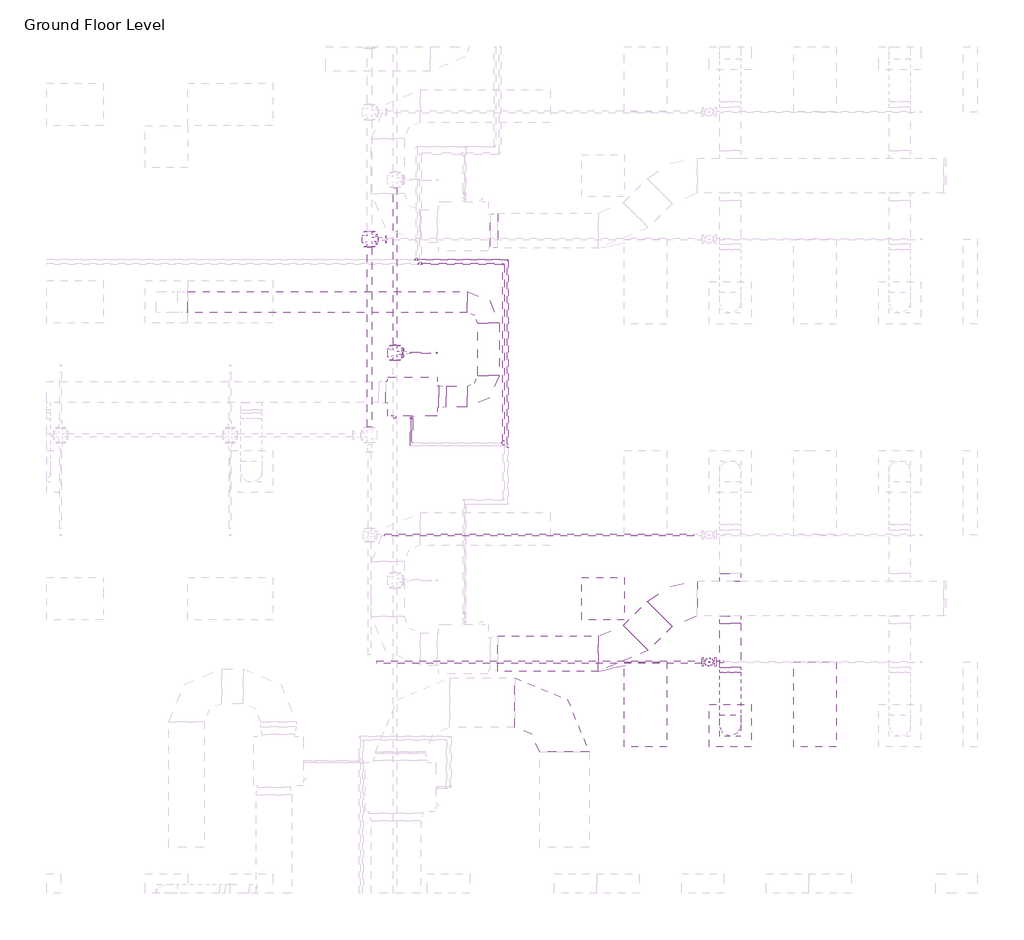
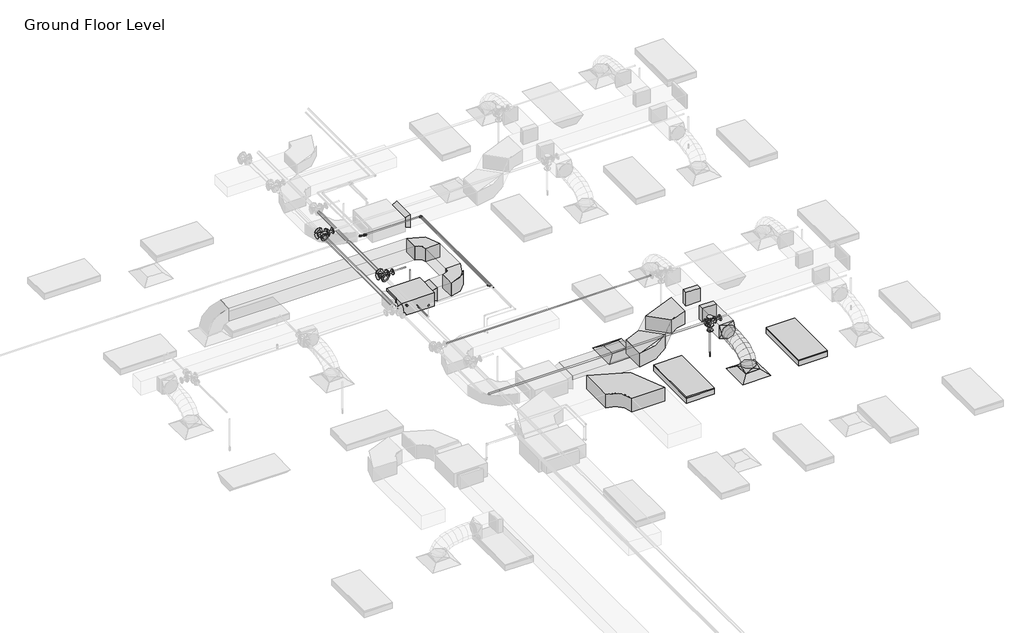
# One storey, part 36 of 74: 18 pipe fittings, 13 pipe segments, 11 duct fittings, 7 duct segments, 2 air terminals, 2 fire suppression terminals, 2 light fixtures, 1 proxy.
"""IFC4 building model written with IfcOpenShell, lengths in millimetres."""

from ifc_helpers import new_model, si_unit, point, frame, frame_2d, origin, place, context, project, spatial, polyline, circle_curve, ellipse_curve, trimmed, segment, composite_curve, outline, extrude, transform, mapped, element, save
from ifc_brep_helpers import plane_surface, cylinder_surface, advanced_brep
from components import m_return_diffuser_600_x_600_face_300_x_300_connection_ff221211, fcu_daikin_iu_27d020f6, m_rectangular_elbow_radius_1_w_618da153, m_rectangular_elbow_radius_1_w_8a62b27e, m_rectangular_elbow_radius_1_5_w_acc56c25, m_rectangular_takeoff_standard_cb0ccb98, m_rectangular_takeoff_standard_2be5eba1, m_rectangular_transition_angle_45_degree_2b595dfe, m_rectangular_transition_angle_45_degree_bfac0661, m_rectangular_to_round_transition_angle_45_degree_641efff0, m_sprinkler_dry_pendent_hosted_15_mm_dry_pendent_9bda8e11, m_sprinkler_pendent_15_mm_pendent_06fcbd8e, m_troffer_light_parabolic_rectangular1_0600x1200mm_4_lamp_86473d4a, m_elbow_generic_standard_a088f956, m_elbow_generic_standard_738589b0, m_reducer_flanged_cs_class_150_standard_ccf252ad, m_reducer_flanged_cs_class_150_standard_83138b42, m_reducer_flanged_cs_class_150_standard_a7631c35, m_tee_generic_standard_cdc1cff5, m_tee_generic_standard_bbfc025c, m_tee_round_base_flanged_cs_class_150_standard_dd767e04, m_tee_round_base_flanged_cs_class_150_standard_7e5987a1, m_tee_round_base_flanged_cs_class_150_standard_ab36f383, m_transition_generic_standard_6dc712c0, m_transition_generic_standard_2351da66, m_transition_generic_standard_bdcfe2c1, m_transition_generic_standard_44e35838

model = new_model("IFC4")

# Units and contexts
model_context = context("Model", 3, world=origin())
ifc_project = project(units=[si_unit("LENGTHUNIT", "METRE", prefix="MILLI")], contexts=[model_context])

# Site, building, storey
site = spatial("IfcSite", under=ifc_project)
building = spatial("IfcBuilding", under=site)
storey = spatial("IfcBuildingStorey", under=building, Name="Ground Floor Level", Elevation=900.0)

# Air terminals
placement = place(None, origin())
m_return_diffuser_600_x_600_face_300_x_300_connection_shape = m_return_diffuser_600_x_600_face_300_x_300_connection_ff221211(model_context)
element("IfcAirTerminal", 1, ObjectType="M_Return Diffuser : 600 x 600 Face 300 x 300 Connection", at=placement, inside=storey, context=model_context, shape_type="MappedRepresentation", body=[
    mapped(m_return_diffuser_600_x_600_face_300_x_300_connection_shape, transform((8942.7672395, -5264.7846466, 3650.0), x_axis=(1.0, 0.0, 0.0), y_axis=(0.0, 1.0, 0.0), z_axis=(0.0, 0.0, 1.0))),
])
element("IfcAirTerminal", 2, ObjectType="M_Supply Diffuser : 600 x 600 Face 300 x 300 Connection", at=placement, inside=storey, context=model_context, shape_type="MappedRepresentation", body=[
    mapped(m_return_diffuser_600_x_600_face_300_x_300_connection_shape, transform((10742.7672395, -7064.7846466, 3650.0), x_axis=(1.0, 0.0, 0.0), y_axis=(0.0, 1.0, 0.0), z_axis=(0.0, 0.0, 1.0))),
])

# Proxy
fcu_daikin_iu_shape = fcu_daikin_iu_27d020f6(model_context)
element("IfcBuildingElementProxy", 3, Name="FCU-DAIKIN IU : 2.3kW, 230V/50Hz/1Ph", ObjectType="FCU-DAIKIN IU : 2.3kW, 230V/50Hz/1Ph", at=placement, inside=storey, context=model_context, shape_type="MappedRepresentation", body=[
    mapped(fcu_daikin_iu_shape, transform((6243.4139492, -2405.2438478, 3934.0874667), x_axis=(0.0, -1.0, 0.0), y_axis=(1.0, 0.0, 0.0), z_axis=(0.0, 0.0, 1.0))),
])

# Duct fittings
m_rectangular_elbow_radius_1_w_shape = m_rectangular_elbow_radius_1_w_618da153(model_context)
element("IfcDuctFitting", 4, ObjectType="M_Rectangular Elbow - Radius : 1 W", at=placement, inside=storey, context=model_context, shape_type="MappedRepresentation", body=[
    mapped(m_rectangular_elbow_radius_1_w_shape, transform((7318.8139492, -2405.2438478, 4075.2874667), x_axis=(1.0, 0.0, 0.0), y_axis=(0.0, 1.0, 0.0), z_axis=(0.0, 0.0, 1.0))),
])
element("IfcDuctFitting", 5, ObjectType="M_Rectangular Elbow - Radius : 1 W", at=placement, inside=storey, context=model_context, shape_type="MappedRepresentation", body=[
    mapped(m_rectangular_elbow_radius_1_w_shape, transform((7318.8139492, -1064.7846466, 4075.2874667), x_axis=(0.0, 1.0, 0.0), y_axis=(-1.0, 0.0, 0.0), z_axis=(0.0, 0.0, 1.0))),
])
m_rectangular_elbow_radius_1_w_2_shape = m_rectangular_elbow_radius_1_w_8a62b27e(model_context)
element("IfcDuctFitting", 6, ObjectType="M_Rectangular Elbow - Radius : 1 W", at=placement, inside=storey, context=model_context, shape_type="MappedRepresentation", body=[
    mapped(m_rectangular_elbow_radius_1_w_2_shape, transform((8393.4139492, -6738.5358641, 4075.2875), x_axis=(0.0, 1.0, 0.0), y_axis=(-1.0, 0.0, 0.0), z_axis=(0.0, 0.0, 1.0))),
])
m_rectangular_elbow_radius_1_5_w_shape = m_rectangular_elbow_radius_1_5_w_acc56c25(model_context)
element("IfcDuctFitting", 7, ObjectType="M_Rectangular Elbow - Radius : 1.5 W", at=placement, inside=storey, context=model_context, shape_type="MappedRepresentation", body=[
    mapped(m_rectangular_elbow_radius_1_5_w_shape, transform((9187.6927358, -6043.8220473, 4100.0047224), x_axis=(0.9999999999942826, 0.0, -3.3815582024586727e-06), y_axis=(-9.063610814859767e-12, 0.9999999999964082, -2.680306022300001e-06), z_axis=(3.3815582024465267e-06, 2.6803060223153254e-06, 0.9999999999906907))),
])
element("IfcDuctFitting", 8, ObjectType="M_Rectangular Elbow - Radius : 1.5 W", at=placement, inside=storey, context=model_context, shape_type="MappedRepresentation", body=[
    mapped(m_rectangular_elbow_radius_1_5_w_shape, transform((9966.7301365, -5264.7846466, 4100.0), x_axis=(-1.0, 0.0, 0.0), y_axis=(0.0, -0.9999999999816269, 6.061864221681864e-06), z_axis=(0.0, 6.061864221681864e-06, 0.9999999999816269))),
])
m_rectangular_takeoff_standard_shape = m_rectangular_takeoff_standard_cb0ccb98(model_context)
element("IfcDuctFitting", 9, ObjectType="M_Rectangular Takeoff : Standard", at=placement, inside=storey, context=model_context, shape_type="MappedRepresentation", body=[
    mapped(m_rectangular_takeoff_standard_shape, transform((10742.7672395, -5014.7846466, 4100.0), x_axis=(0.0, 1.0, 0.0), y_axis=(1.0, 0.0, 0.0), z_axis=(0.0, 0.0, -1.0))),
])
m_rectangular_takeoff_standard_2_shape = m_rectangular_takeoff_standard_2be5eba1(model_context)
element("IfcDuctFitting", 10, ObjectType="M_Rectangular Takeoff : Standard", at=placement, inside=storey, context=model_context, shape_type="MappedRepresentation", body=[
    mapped(m_rectangular_takeoff_standard_2_shape, transform((10742.7672395, -5514.7846466, 4100.0), x_axis=(0.0, -1.0, 0.0), y_axis=(-1.0, 0.0, 0.0), z_axis=(0.0, 0.0, -1.0))),
])
m_rectangular_transition_angle_45_degree_shape = m_rectangular_transition_angle_45_degree_2b595dfe(model_context)
element("IfcDuctFitting", 11, ObjectType="M_Rectangular Transition - Angle : 45 Degree", at=placement, inside=storey, context=model_context, shape_type="MappedRepresentation", body=[
    mapped(m_rectangular_transition_angle_45_degree_shape, transform((7344.2139492, -53.8220473, 4100.0057729), x_axis=(1.0, 0.0, 0.0), y_axis=(0.0, 1.0, 0.0), z_axis=(0.0, 0.0, 1.0))),
])
m_rectangular_transition_angle_45_degree_2_shape = m_rectangular_transition_angle_45_degree_bfac0661(model_context)
element("IfcDuctFitting", 12, ObjectType="M_Rectangular Transition - Angle : 45 Degree", at=placement, inside=storey, context=model_context, shape_type="MappedRepresentation", body=[
    mapped(m_rectangular_transition_angle_45_degree_2_shape, transform((6618.8139492, -2405.2438478, 4075.2874667), x_axis=(1.0, 0.0, 0.0), y_axis=(0.0, 1.0, 0.0), z_axis=(0.0, 0.0, 1.0))),
])
m_rectangular_to_round_transition_angle_45_degree_shape = m_rectangular_to_round_transition_angle_45_degree_641efff0(model_context)
element("IfcDuctFitting", 13, ObjectType="M_Rectangular to Round Transition - Angle : 45 Degree", at=placement, inside=storey, context=model_context, shape_type="MappedRepresentation", body=[
    mapped(m_rectangular_to_round_transition_angle_45_degree_shape, transform((10742.7672395, -7064.7846466, 3751.6), x_axis=(0.0, 0.0, 1.0), y_axis=(-1.0, 0.0, 0.0), z_axis=(0.0, -1.0, 0.0))),
])
element("IfcDuctFitting", 14, ObjectType="M_Rectangular to Round Transition - Angle : 45 Degree", at=placement, inside=storey, context=model_context, shape_type="MappedRepresentation", body=[
    mapped(m_rectangular_to_round_transition_angle_45_degree_shape, transform((10742.7672395, -6237.4487153, 4100.0), x_axis=(0.0, -1.0, 0.0), y_axis=(1.0, 0.0, 0.0), z_axis=(0.0, 0.0, 1.0))),
])

# Duct segments
element("IfcDuctSegment", 15, ObjectType="Flex - Round", at=placement, inside=storey, context=model_context, shape_type="AdvancedBrep", body=[
    advanced_brep(
    [(10892.7672395, -7064.7846466, 3826.6), (10742.7672395, -7214.7846466, 3826.6), (10592.7672395, -7064.7846466, 3826.6), (10742.7672395, -6914.7846466, 3826.6), (10892.7672395, -7064.7846466, 3857.9377114), (10742.7672395, -7214.7846466, 3883.5809337), (10592.7672395, -7064.7846466, 3857.9377114), (10742.7672395, -6914.7846466, 3832.2944892), (10892.7672395, -7047.7687141, 3906.2505728), (10742.7672395, -7181.506693, 3978.0660967), (10592.7672395, -7047.7687141, 3906.2505728), (10742.7672395, -6914.0307351, 3834.435049), (10892.7672395, -7000.5848337, 3968.7113131), (10742.7672395, -7104.7907329, 4079.6206026), (10592.7672395, -7000.5848337, 3968.7113131), (10742.7672395, -6896.3789345, 3857.8020236), (10892.7672395, -6929.0288815, 4016.0700639), (10742.7672395, -6997.9629372, 4150.3237489), (10592.7672395, -6929.0288815, 4016.0700639), (10742.7672395, -6860.0948259, 3881.8163788), (10892.7672395, -6838.8967335, 4050.4146682), (10742.7672395, -6882.4574967, 4194.3367758), (10592.7672395, -6838.8967335, 4050.4146682), (10742.7672395, -6795.3359704, 3906.4925606), (10892.7672395, -6735.9842657, 4073.8329691), (10742.7672395, -6762.5451897, 4221.6234841), (10592.7672395, -6735.9842657, 4073.8329691), (10742.7672395, -6709.4233417, 3926.0424542), (10892.7672395, -6626.087354, 4088.4128097), (10742.7672395, -6641.2382563, 4237.7170733), (10592.7672395, -6626.087354, 4088.4128097), (10742.7672395, -6610.9364516, 3939.1085462), (10892.7672395, -6515.0018743, 4096.242033), (10742.7672395, -6522.5072025, 4246.085151), (10592.7672395, -6515.0018743, 4096.242033), (10742.7672395, -6507.4965462, 3946.398915), (10892.7672395, -6408.5237028, 4099.4084821), (10742.7672395, -6411.2151959, 4249.394754), (10592.7672395, -6408.5237028, 4099.4084821), (10742.7672395, -6405.8322097, 3949.4222102), (10892.7672395, -6312.4487153, 4100.0), (10742.7672395, -6311.5252075, 3950.0028429), (10592.7672395, -6312.4487153, 4100.0), (10742.7672395, -6313.3722232, 4249.9971571)],
    [
        (0, 1, circle_curve(frame((10742.7672395, -7064.7846466, 3826.6), z_axis=(0.0, 0.0, -1.0), x_axis=(1.0, 0.0, 0.0)), 150.0)),
        (1, 2, circle_curve(frame((10742.7672395, -7064.7846466, 3826.6), z_axis=(0.0, 0.0, -1.0), x_axis=(1.0, 0.0, 0.0)), 150.0)),
        (2, 3, circle_curve(frame((10742.7672395, -7064.7846466, 3826.6), z_axis=(0.0, 0.0, -1.0), x_axis=(1.0, 0.0, 0.0)), 150.0)),
        (3, 0, circle_curve(frame((10742.7672395, -7064.7846466, 3826.6), z_axis=(0.0, 0.0, -1.0), x_axis=(1.0, 0.0, 0.0)), 150.0)),
        (0, 4),
        (4, 5, ellipse_curve(frame((10742.7672395, -7064.7846466, 3857.9377114), z_axis=(0.0, -0.16851014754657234, -0.9856999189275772), x_axis=(0.0, 0.9856999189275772, -0.1685101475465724)), 152.176131, 150.0)),
        (5, 1),
        (5, 6, ellipse_curve(frame((10742.7672395, -7064.7846466, 3857.9377114), z_axis=(0.0, -0.16851014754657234, -0.9856999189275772), x_axis=(0.0, 0.9856999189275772, -0.1685101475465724)), 152.176131, 150.0)),
        (6, 2),
        (6, 7, ellipse_curve(frame((10742.7672395, -7064.7846466, 3857.9377114), z_axis=(0.0, -0.16851014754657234, -0.9856999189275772), x_axis=(0.0, 0.9856999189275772, -0.1685101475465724)), 152.176131, 150.0)),
        (7, 3),
        (7, 4, ellipse_curve(frame((10742.7672395, -7064.7846466, 3857.9377114), z_axis=(0.0, -0.16851014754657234, -0.9856999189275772), x_axis=(0.0, 0.9856999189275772, -0.1685101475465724)), 152.176131, 150.0)),
        (4, 8),
        (8, 9, ellipse_curve(frame((10742.7672395, -7047.7687141, 3906.2505728), z_axis=(0.0, -0.4730922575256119, -0.8810128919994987), x_axis=(0.0, 0.8810128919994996, -0.47309225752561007)), 151.8002519, 150.0)),
        (9, 5),
        (9, 10, ellipse_curve(frame((10742.7672395, -7047.7687141, 3906.2505728), z_axis=(0.0, -0.4730922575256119, -0.8810128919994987), x_axis=(0.0, 0.8810128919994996, -0.47309225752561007)), 151.8002519, 150.0)),
        (10, 6),
        (10, 11, ellipse_curve(frame((10742.7672395, -7047.7687141, 3906.2505728), z_axis=(0.0, -0.4730922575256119, -0.8810128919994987), x_axis=(0.0, 0.8810128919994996, -0.47309225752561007)), 151.8002519, 150.0)),
        (11, 7),
        (11, 8, ellipse_curve(frame((10742.7672395, -7047.7687141, 3906.2505728), z_axis=(0.0, -0.4730922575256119, -0.8810128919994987), x_axis=(0.0, 0.8810128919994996, -0.47309225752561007)), 151.8002519, 150.0)),
        (8, 12),
        (12, 13, ellipse_curve(frame((10742.7672395, -7000.5848337, 3968.7113131), z_axis=(0.0, -0.7287877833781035, -0.6847396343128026), x_axis=(0.0, 0.6847396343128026, -0.7287877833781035)), 152.1832446, 150.0)),
        (13, 9),
        (13, 14, ellipse_curve(frame((10742.7672395, -7000.5848337, 3968.7113131), z_axis=(0.0, -0.7287877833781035, -0.6847396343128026), x_axis=(0.0, 0.6847396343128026, -0.7287877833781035)), 152.1832446, 150.0)),
        (14, 10),
        (14, 15, ellipse_curve(frame((10742.7672395, -7000.5848337, 3968.7113131), z_axis=(0.0, -0.7287877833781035, -0.6847396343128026), x_axis=(0.0, 0.6847396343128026, -0.7287877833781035)), 152.1832446, 150.0)),
        (15, 11),
        (15, 12, ellipse_curve(frame((10742.7672395, -7000.5848337, 3968.7113131), z_axis=(0.0, -0.7287877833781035, -0.6847396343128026), x_axis=(0.0, 0.6847396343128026, -0.7287877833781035)), 152.1832446, 150.0)),
        (12, 16),
        (16, 17, ellipse_curve(frame((10742.7672395, -6929.0288815, 4016.0700639), z_axis=(0.0, -0.8895859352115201, -0.4567678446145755), x_axis=(0.0, 0.45676784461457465, -0.8895859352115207)), 150.91705, 150.0)),
        (17, 13),
        (17, 18, ellipse_curve(frame((10742.7672395, -6929.0288815, 4016.0700639), z_axis=(0.0, -0.8895859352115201, -0.4567678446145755), x_axis=(0.0, 0.45676784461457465, -0.8895859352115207)), 150.91705, 150.0)),
        (18, 14),
        (18, 19, ellipse_curve(frame((10742.7672395, -6929.0288815, 4016.0700639), z_axis=(0.0, -0.8895859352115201, -0.4567678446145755), x_axis=(0.0, 0.45676784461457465, -0.8895859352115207)), 150.91705, 150.0)),
        (19, 15),
        (19, 16, ellipse_curve(frame((10742.7672395, -6929.0288815, 4016.0700639), z_axis=(0.0, -0.8895859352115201, -0.4567678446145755), x_axis=(0.0, 0.45676784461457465, -0.8895859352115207)), 150.91705, 150.0)),
        (16, 20),
        (20, 21, ellipse_curve(frame((10742.7672395, -6838.8967335, 4050.4146682), z_axis=(0.0, -0.9571203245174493, -0.28969067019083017), x_axis=(0.0, 0.28969067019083, -0.9571203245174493)), 150.369921, 150.0)),
        (21, 17),
        (21, 22, ellipse_curve(frame((10742.7672395, -6838.8967335, 4050.4146682), z_axis=(0.0, -0.9571203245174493, -0.28969067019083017), x_axis=(0.0, 0.28969067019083, -0.9571203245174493)), 150.369921, 150.0)),
        (22, 18),
        (22, 23, ellipse_curve(frame((10742.7672395, -6838.8967335, 4050.4146682), z_axis=(0.0, -0.9571203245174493, -0.28969067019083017), x_axis=(0.0, 0.28969067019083, -0.9571203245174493)), 150.369921, 150.0)),
        (23, 19),
        (23, 20, ellipse_curve(frame((10742.7672395, -6838.8967335, 4050.4146682), z_axis=(0.0, -0.9571203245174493, -0.28969067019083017), x_axis=(0.0, 0.28969067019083, -0.9571203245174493)), 150.369921, 150.0)),
        (20, 24),
        (24, 25, ellipse_curve(frame((10742.7672395, -6735.9842657, 4073.8329691), z_axis=(0.0, -0.9842313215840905, -0.1768861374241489), x_axis=(0.0, 0.17688613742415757, -0.9842313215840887)), 150.1583131, 150.0)),
        (25, 21),
        (25, 26, ellipse_curve(frame((10742.7672395, -6735.9842657, 4073.8329691), z_axis=(0.0, -0.9842313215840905, -0.1768861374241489), x_axis=(0.0, 0.17688613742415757, -0.9842313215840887)), 150.1583131, 150.0)),
        (26, 22),
        (26, 27, ellipse_curve(frame((10742.7672395, -6735.9842657, 4073.8329691), z_axis=(0.0, -0.9842313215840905, -0.1768861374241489), x_axis=(0.0, 0.17688613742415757, -0.9842313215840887)), 150.1583131, 150.0)),
        (27, 23),
        (27, 24, ellipse_curve(frame((10742.7672395, -6735.9842657, 4073.8329691), z_axis=(0.0, -0.9842313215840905, -0.1768861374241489), x_axis=(0.0, 0.17688613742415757, -0.9842313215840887)), 150.1583131, 150.0)),
        (24, 28),
        (28, 29, ellipse_curve(frame((10742.7672395, -6626.087354, 4088.4128097), z_axis=(0.0, -0.9948906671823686, -0.10095821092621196), x_axis=(0.0, 0.10095821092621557, -0.9948906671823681)), 150.0710264, 150.0)),
        (29, 25),
        (29, 30, ellipse_curve(frame((10742.7672395, -6626.087354, 4088.4128097), z_axis=(0.0, -0.9948906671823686, -0.10095821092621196), x_axis=(0.0, 0.10095821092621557, -0.9948906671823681)), 150.0710264, 150.0)),
        (30, 26),
        (30, 31, ellipse_curve(frame((10742.7672395, -6626.087354, 4088.4128097), z_axis=(0.0, -0.9948906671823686, -0.10095821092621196), x_axis=(0.0, 0.10095821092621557, -0.9948906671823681)), 150.0710264, 150.0)),
        (31, 27),
        (31, 28, ellipse_curve(frame((10742.7672395, -6626.087354, 4088.4128097), z_axis=(0.0, -0.9948906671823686, -0.10095821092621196), x_axis=(0.0, 0.10095821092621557, -0.9948906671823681)), 150.0710264, 150.0)),
        (28, 32),
        (32, 33, ellipse_curve(frame((10742.7672395, -6515.0018743, 4096.242033), z_axis=(0.0, -0.9987479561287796, -0.05002519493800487), x_axis=(0.0, 0.050025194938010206, -0.9987479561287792)), 150.0309634, 150.0)),
        (33, 29),
        (33, 34, ellipse_curve(frame((10742.7672395, -6515.0018743, 4096.242033), z_axis=(0.0, -0.9987479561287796, -0.05002519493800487), x_axis=(0.0, 0.050025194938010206, -0.9987479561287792)), 150.0309634, 150.0)),
        (34, 30),
        (34, 35, ellipse_curve(frame((10742.7672395, -6515.0018743, 4096.242033), z_axis=(0.0, -0.9987479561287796, -0.05002519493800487), x_axis=(0.0, 0.050025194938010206, -0.9987479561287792)), 150.0309634, 150.0)),
        (35, 31),
        (35, 32, ellipse_curve(frame((10742.7672395, -6515.0018743, 4096.242033), z_axis=(0.0, -0.9987479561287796, -0.05002519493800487), x_axis=(0.0, 0.050025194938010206, -0.9987479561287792)), 150.0309634, 150.0)),
        (32, 36),
        (36, 37, ellipse_curve(frame((10742.7672395, -6408.5237028, 4099.4084821), z_axis=(0.0, -0.9998390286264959, -0.017942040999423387), x_axis=(0.0, 0.01794204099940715, -0.9998390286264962)), 150.0104193, 150.0)),
        (37, 33),
        (37, 38, ellipse_curve(frame((10742.7672395, -6408.5237028, 4099.4084821), z_axis=(0.0, -0.9998390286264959, -0.017942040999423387), x_axis=(0.0, 0.01794204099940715, -0.9998390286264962)), 150.0104193, 150.0)),
        (38, 34),
        (38, 39, ellipse_curve(frame((10742.7672395, -6408.5237028, 4099.4084821), z_axis=(0.0, -0.9998390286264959, -0.017942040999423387), x_axis=(0.0, 0.01794204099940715, -0.9998390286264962)), 150.0104193, 150.0)),
        (39, 35),
        (39, 36, ellipse_curve(frame((10742.7672395, -6408.5237028, 4099.4084821), z_axis=(0.0, -0.9998390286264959, -0.017942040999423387), x_axis=(0.0, 0.01794204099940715, -0.9998390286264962)), 150.0104193, 150.0)),
        (40, 41, circle_curve(frame((10742.7672395, -6312.4487153, 4100.0), z_axis=(0.0, 0.9999810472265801, 0.0061567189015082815), x_axis=(1.0, 0.0, 0.0)), 150.0)),
        (41, 42, circle_curve(frame((10742.7672395, -6312.4487153, 4100.0), z_axis=(0.0, 0.9999810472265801, 0.0061567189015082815), x_axis=(1.0, 0.0, 0.0)), 150.0)),
        (42, 43, circle_curve(frame((10742.7672395, -6312.4487153, 4100.0), z_axis=(0.0, 0.9999810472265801, 0.0061567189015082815), x_axis=(1.0, 0.0, 0.0)), 150.0)),
        (43, 40, circle_curve(frame((10742.7672395, -6312.4487153, 4100.0), z_axis=(0.0, 0.9999810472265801, 0.0061567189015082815), x_axis=(1.0, 0.0, 0.0)), 150.0)),
        (36, 40),
        (43, 37),
        (42, 38),
        (41, 39),
    ],
    [
        plane_surface(frame((10742.7672395, -7214.7846466, 3826.6), z_axis=(0.0, 0.0, -1.0), x_axis=(1.0, 0.0, 0.0))),
        cylinder_surface(frame((10742.7672395, -7064.7846466, 3826.6), z_axis=(0.0, 0.0, -1.0), x_axis=(1.0, 0.0, 0.0)), 150.0),
        cylinder_surface(frame((10742.7672395, -7064.7846466, 3857.9377114), z_axis=(0.0, -0.3322008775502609, -0.9432086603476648), x_axis=(1.0, 0.0, 0.0)), 150.0),
        cylinder_surface(frame((10742.7672395, -7047.7687141, 3906.2505728), z_axis=(0.0, -0.6027625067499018, -0.7979206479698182), x_axis=(1.0, 0.0, 0.0)), 150.0),
        cylinder_surface(frame((10742.7672395, -7000.5848337, 3968.7113131), z_axis=(0.0, -0.8339024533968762, -0.5519118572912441), x_axis=(1.0, 0.0, 0.0)), 150.0),
        cylinder_surface(frame((10742.7672395, -6929.0288815, 4016.0700639), z_axis=(0.0, -0.9344582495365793, -0.3560727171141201), x_axis=(1.0, 0.0, 0.0)), 150.0),
        cylinder_surface(frame((10742.7672395, -6838.8967335, 4050.4146682), z_axis=(0.0, -0.9750732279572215, -0.2218833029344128), x_axis=(1.0, 0.0, 0.0)), 150.0),
        cylinder_surface(frame((10742.7672395, -6735.9842657, 4073.8329691), z_axis=(0.0, -0.9913140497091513, -0.13151598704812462), x_axis=(1.0, 0.0, 0.0)), 150.0),
        cylinder_surface(frame((10742.7672395, -6626.087354, 4088.4128097), z_axis=(0.0, -0.9975255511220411, -0.07030487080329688), x_axis=(1.0, 0.0, 0.0)), 150.0),
        cylinder_surface(frame((10742.7672395, -6515.0018743, 4096.242033), z_axis=(0.0, -0.9995581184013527, -0.02972487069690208), x_axis=(1.0, 0.0, 0.0)), 150.0),
        plane_surface(frame((10742.7672395, -6313.3722232, 4249.9971571), z_axis=(0.0, 0.9999810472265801, 0.0061567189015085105), x_axis=(1.0, 0.0, 0.0))),
        cylinder_surface(frame((10742.7672395, -6408.5237028, 4099.4084821), z_axis=(0.0, -0.9999810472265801, -0.0061567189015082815), x_axis=(1.0, 0.0, 0.0)), 150.0),
    ],
    [
        (0, [[1, 2, 3, 4]]),
        (1, [[-1, 5, 6, 7]]),
        (1, [[-2, -7, 8, 9]]),
        (1, [[-3, -9, 10, 11]]),
        (1, [[-4, -11, 12, -5]]),
        (2, [[-6, 13, 14, 15]]),
        (2, [[-8, -15, 16, 17]]),
        (2, [[-10, -17, 18, 19]]),
        (2, [[-12, -19, 20, -13]]),
        (3, [[-14, 21, 22, 23]]),
        (3, [[-16, -23, 24, 25]]),
        (3, [[-18, -25, 26, 27]]),
        (3, [[-20, -27, 28, -21]]),
        (4, [[-22, 29, 30, 31]]),
        (4, [[-24, -31, 32, 33]]),
        (4, [[-26, -33, 34, 35]]),
        (4, [[-28, -35, 36, -29]]),
        (5, [[-30, 37, 38, 39]]),
        (5, [[-32, -39, 40, 41]]),
        (5, [[-34, -41, 42, 43]]),
        (5, [[-36, -43, 44, -37]]),
        (6, [[-38, 45, 46, 47]]),
        (6, [[-40, -47, 48, 49]]),
        (6, [[-42, -49, 50, 51]]),
        (6, [[-44, -51, 52, -45]]),
        (7, [[-46, 53, 54, 55]]),
        (7, [[-48, -55, 56, 57]]),
        (7, [[-50, -57, 58, 59]]),
        (7, [[-52, -59, 60, -53]]),
        (8, [[-54, 61, 62, 63]]),
        (8, [[-56, -63, 64, 65]]),
        (8, [[-58, -65, 66, 67]]),
        (8, [[-60, -67, 68, -61]]),
        (9, [[-62, 69, 70, 71]]),
        (9, [[-64, -71, 72, 73]]),
        (9, [[-66, -73, 74, 75]]),
        (9, [[-68, -75, 76, -69]]),
        (10, [[77, 78, 79, 80]]),
        (11, [[-70, 81, -80, 82]]),
        (11, [[-72, -82, -79, 83]]),
        (11, [[-74, -83, -78, 84]]),
        (11, [[-76, -84, -77, -81]]),
    ],
),
])
element("IfcDuctSegment", 16, ObjectType="Radius Elbows / Taps", at=placement, inside=storey, context=model_context, shape_type="SweptSolid", body=[
    extrude(outline(polyline([(7447.693178, -6293.8220473), (7447.693178, -5793.8220473), (8877.032564, -5793.8220473), (8877.032564, -6293.8220473), (7447.693178, -6293.8220473)])), frame((0.0, 0.0, 3950.0057729), z_axis=(0.0, 0.0, 1.0), x_axis=(1.0, 0.0, 0.0)), (0.0, 0.0, 1.0), 300.0),
])
element("IfcDuctSegment", 17, ObjectType="Radius Elbows / Taps", at=placement, inside=storey, context=model_context, shape_type="SweptSolid", body=[
    extrude(outline(polyline([(9584.1393452, -6000.9288285), (9230.5859546, -5647.3754379), (9570.2835271, -5307.6778654), (9923.8369177, -5661.231256), (9584.1393452, -6000.9288285)])), frame((0.0, 0.0, 3950.0033908), z_axis=(0.0, 0.0, 1.0), x_axis=(1.0, 0.0, 0.0)), (0.0, 0.0, 1.0), 300.0),
])
element("IfcDuctSegment", 18, ObjectType="Radius Elbows / Taps", at=placement, inside=storey, context=model_context, shape_type="SweptSolid", body=[
    extrude(outline(polyline([(6722.2630004, -2555.2438478), (6722.2630004, -2255.2438478), (7018.8139492, -2255.2438478), (7018.8139492, -2555.2438478), (6722.2630004, -2555.2438478)])), frame((0.0, 0.0, 3925.2874667), z_axis=(0.0, 0.0, 1.0), x_axis=(1.0, 0.0, 0.0)), (0.0, 0.0, 1.0), 300.0),
])
element("IfcDuctSegment", 19, ObjectType="Radius Elbows / Taps", at=placement, inside=storey, context=model_context, shape_type="SweptSolid", body=[
    extrude(outline(polyline([(7468.8139492, -2105.2438478), (7168.8139492, -2105.2438478), (7168.8139492, -1364.7846466), (7468.8139492, -1364.7846466), (7468.8139492, -2105.2438478)])), frame((0.0, 0.0, 3925.2874667), z_axis=(0.0, 0.0, 1.0), x_axis=(1.0, 0.0, 0.0)), (0.0, 0.0, 1.0), 300.0),
])
element("IfcDuctSegment", 20, ObjectType="Radius Elbows / Taps", at=placement, inside=storey, context=model_context, shape_type="SweptSolid", body=[
    extrude(outline(polyline([(3062.7672395, -1214.7846466), (3062.7672395, -914.7846466), (7018.8139492, -914.7846466), (7018.8139492, -1214.7846466), (3062.7672395, -1214.7846466)])), frame((0.0, 0.0, 3925.2874667), z_axis=(0.0, 0.0, 1.0), x_axis=(1.0, 0.0, 0.0)), (0.0, 0.0, 1.0), 300.0),
])
element("IfcDuctSegment", 21, ObjectType="Radius Elbows / Taps", at=placement, inside=storey, context=model_context, shape_type="SweptSolid", body=[
    extrude(outline(polyline([(10592.7672395, -5616.3846466), (10892.7672395, -5616.3846466), (10892.7672395, -6237.4487153), (10592.7672395, -6237.4487153), (10592.7672395, -5616.3846466)])), frame((0.0, 0.0, 3950.0), z_axis=(0.0, 0.0, 1.0), x_axis=(1.0, 0.0, 0.0)), (0.0, 0.0, 1.0), 300.0),
])

# Fire suppression terminals
m_sprinkler_dry_pendent_hosted_15_mm_dry_pendent_shape = m_sprinkler_dry_pendent_hosted_15_mm_dry_pendent_9bda8e11(model_context)
element("IfcFireSuppressionTerminal", 22, ObjectType="M_Sprinkler - Dry - Pendent - Hosted : 15 mm Dry Pendent", at=placement, inside=storey, context=model_context, shape_type="MappedRepresentation", body=[
    mapped(m_sprinkler_dry_pendent_hosted_15_mm_dry_pendent_shape, transform((10442.7672395, -6164.7846466, 3650.0), x_axis=(1.0, 0.0, 0.0), y_axis=(0.0, -1.0, 0.0), z_axis=(0.0, 0.0, -1.0))),
])
m_sprinkler_pendent_15_mm_pendent_shape = m_sprinkler_pendent_15_mm_pendent_06fcbd8e(model_context)
element("IfcFireSuppressionTerminal", 23, ObjectType="M_Sprinkler - Pendent : 15 mm Pendent", at=placement, inside=storey, context=model_context, shape_type="MappedRepresentation", body=[
    mapped(m_sprinkler_pendent_15_mm_pendent_shape, transform((6592.5481019, -1785.2908301, 3650.0), x_axis=(1.0, 0.0, 0.0), y_axis=(0.0, 1.0, 0.0), z_axis=(0.0, 0.0, 1.0))),
])

# Light fixtures
m_troffer_light_parabolic_rectangular1_0600x1200mm_4_lamp_shape = m_troffer_light_parabolic_rectangular1_0600x1200mm_4_lamp_86473d4a(model_context)
element("IfcLightFixture", 24, ObjectType="M_Troffer Light - Parabolic Rectangular1 : 0600x1200mm(4 Lamp) - 277V 2", at=placement, inside=storey, context=model_context, shape_type="MappedRepresentation", body=[
    mapped(m_troffer_light_parabolic_rectangular1_0600x1200mm_4_lamp_shape, transform((9483.3013074, -6746.081145, 3650.0), x_axis=(0.0, 1.0, 0.0), y_axis=(-1.0, 0.0, 0.0), z_axis=(0.0, 0.0, 1.0))),
])
element("IfcLightFixture", 25, ObjectType="M_Troffer Light - Parabolic Rectangular1 : 0600x1200mm(4 Lamp) - 277V 2", at=placement, inside=storey, context=model_context, shape_type="MappedRepresentation", body=[
    mapped(m_troffer_light_parabolic_rectangular1_0600x1200mm_4_lamp_shape, transform((11883.3013074, -6746.081145, 3650.0), x_axis=(0.0, 1.0, 0.0), y_axis=(-1.0, 0.0, 0.0), z_axis=(0.0, 0.0, 1.0))),
])

# Pipe fittings
m_elbow_generic_standard_shape = m_elbow_generic_standard_a088f956(model_context)
element("IfcPipeFitting", 26, ObjectType="M_Elbow - Generic : Standard", at=placement, inside=storey, context=model_context, shape_type="MappedRepresentation", body=[
    mapped(m_elbow_generic_standard_shape, transform((7594.4307053, -465.9814862, 4265.0), x_axis=(0.0, 1.0, 0.0), y_axis=(-1.0, 0.0, 0.0), z_axis=(0.0, 0.0, 1.0))),
])
m_elbow_generic_standard_2_shape = m_elbow_generic_standard_738589b0(model_context)
element("IfcPipeFitting", 27, ObjectType="M_Elbow - Generic : Standard", at=placement, inside=storey, context=model_context, shape_type="MappedRepresentation", body=[
    mapped(m_elbow_generic_standard_2_shape, transform((7534.4307053, -523.9901455, 4300.0), x_axis=(0.0, 1.0, 0.0), y_axis=(-1.0, 0.0, 0.0), z_axis=(0.0, 0.0, 1.0))),
])
m_reducer_flanged_cs_class_150_standard_shape = m_reducer_flanged_cs_class_150_standard_ccf252ad(model_context)
element("IfcPipeFitting", 28, ObjectType="M_Reducer - Flanged - CS - Class 150 : Standard", at=placement, inside=storey, context=model_context, shape_type="MappedRepresentation", body=[
    mapped(m_reducer_flanged_cs_class_150_standard_shape, transform((10543.4758332, -6164.7846466, 4360.0), x_axis=(1.0, 0.0, 0.0), y_axis=(0.0, 0.0, 1.0), z_axis=(0.0, -1.0, 0.0))),
])
element("IfcPipeFitting", 29, ObjectType="M_Reducer - Flanged - CS - Class 150 : Standard", at=placement, inside=storey, context=model_context, shape_type="MappedRepresentation", body=[
    mapped(m_reducer_flanged_cs_class_150_standard_shape, transform((10442.7672395, -6164.7846466, 4259.2914063), x_axis=(0.0, 0.0, -1.0), y_axis=(-1.0, 0.0, 0.0), z_axis=(0.0, 1.0, 0.0))),
])
m_reducer_flanged_cs_class_150_standard_2_shape = m_reducer_flanged_cs_class_150_standard_83138b42(model_context)
element("IfcPipeFitting", 30, ObjectType="M_Reducer - Flanged - CS - Class 150 : Standard", at=placement, inside=storey, context=model_context, shape_type="MappedRepresentation", body=[
    mapped(m_reducer_flanged_cs_class_150_standard_2_shape, transform((6109.3164057, -1785.2908301, 4290.0), x_axis=(1.0, 0.0, 0.0), y_axis=(0.0, 0.0, -1.0), z_axis=(0.0, 1.0, 0.0))),
])
m_reducer_flanged_cs_class_150_standard_3_shape = m_reducer_flanged_cs_class_150_standard_a7631c35(model_context)
element("IfcPipeFitting", 31, ObjectType="M_Reducer - Flanged - CS - Class 150 : Standard", at=placement, inside=storey, context=model_context, shape_type="MappedRepresentation", body=[
    mapped(m_reducer_flanged_cs_class_150_standard_3_shape, transform((5749.869498, -174.7846466, 4360.0), x_axis=(1.0, 0.0, 0.0), y_axis=(0.0, 0.0, 1.0), z_axis=(0.0, -1.0, 0.0))),
])
m_tee_generic_standard_shape = m_tee_generic_standard_cdc1cff5(model_context)
element("IfcPipeFitting", 32, ObjectType="M_Tee - Generic : Standard", at=placement, inside=storey, context=model_context, shape_type="MappedRepresentation", body=[
    mapped(m_tee_generic_standard_shape, transform((6302.4595152, -465.9814862, 4265.0), x_axis=(1.0, 0.0, 0.0), y_axis=(0.0, -1.0, 0.0), z_axis=(0.0, 0.0, -1.0))),
])
m_tee_generic_standard_2_shape = m_tee_generic_standard_bbfc025c(model_context)
element("IfcPipeFitting", 33, ObjectType="M_Tee - Generic : Standard", at=placement, inside=storey, context=model_context, shape_type="MappedRepresentation", body=[
    mapped(m_tee_generic_standard_2_shape, transform((6355.3210494, -523.9901455, 4300.0), x_axis=(1.0, 0.0, 0.0), y_axis=(0.0, -1.0, 0.0), z_axis=(0.0, 0.0, -1.0))),
])
m_tee_round_base_flanged_cs_class_150_standard_shape = m_tee_round_base_flanged_cs_class_150_standard_dd767e04(model_context)
element("IfcPipeFitting", 34, ObjectType="M_Tee Round Base - Flanged - CS - Class 150 : Standard", at=placement, inside=storey, context=model_context, shape_type="MappedRepresentation", body=[
    mapped(m_tee_round_base_flanged_cs_class_150_standard_shape, transform((5635.869498, -174.7846466, 4360.0), x_axis=(0.0, 1.0, 0.0), y_axis=(-1.0, 0.0, 0.0), z_axis=(0.0, 0.0, 1.0))),
])
m_tee_round_base_flanged_cs_class_150_standard_2_shape = m_tee_round_base_flanged_cs_class_150_standard_7e5987a1(model_context)
element("IfcPipeFitting", 35, ObjectType="M_Tee Round Base - Flanged - CS - Class 150 : Standard", at=placement, inside=storey, context=model_context, shape_type="MappedRepresentation", body=[
    mapped(m_tee_round_base_flanged_cs_class_150_standard_2_shape, transform((10442.7672395, -6164.7846466, 4360.0), x_axis=(1.0, 0.0, 0.0), y_axis=(0.0, 0.0, 1.0), z_axis=(0.0, -1.0, 0.0))),
])
m_tee_round_base_flanged_cs_class_150_standard_3_shape = m_tee_round_base_flanged_cs_class_150_standard_ab36f383(model_context)
element("IfcPipeFitting", 36, ObjectType="M_Tee Round Base - Flanged - CS - Class 150 : Standard", at=placement, inside=storey, context=model_context, shape_type="MappedRepresentation", body=[
    mapped(m_tee_round_base_flanged_cs_class_150_standard_3_shape, transform((5997.057812, -1785.2908301, 4290.0), x_axis=(0.0, 1.0, 0.0), y_axis=(-1.0, 0.0, 0.0), z_axis=(0.0, 0.0, 1.0))),
])
m_transition_generic_standard_shape = m_transition_generic_standard_6dc712c0(model_context)
element("IfcPipeFitting", 37, ObjectType="M_Transition - Generic : Standard", at=placement, inside=storey, context=model_context, shape_type="MappedRepresentation", body=[
    mapped(m_transition_generic_standard_shape, transform((6324.6845152, -465.9814862, 4265.0), x_axis=(1.0, 0.0, 0.0), y_axis=(0.0, 1.0, 0.0), z_axis=(0.0, 0.0, 1.0))),
])
element("IfcPipeFitting", 38, ObjectType="M_Transition - Generic : Standard", at=placement, inside=storey, context=model_context, shape_type="MappedRepresentation", body=[
    mapped(m_transition_generic_standard_shape, transform((6280.2345152, -465.9814862, 4265.0), x_axis=(-1.0, 0.0, 0.0), y_axis=(0.0, -1.0, 0.0), z_axis=(0.0, 0.0, 1.0))),
])
m_transition_generic_standard_2_shape = m_transition_generic_standard_2351da66(model_context)
element("IfcPipeFitting", 39, ObjectType="M_Transition - Generic : Standard", at=placement, inside=storey, context=model_context, shape_type="MappedRepresentation", body=[
    mapped(m_transition_generic_standard_2_shape, transform((6380.7210494, -523.9901455, 4300.0), x_axis=(1.0, 0.0, 0.0), y_axis=(0.0, 1.0, 0.0), z_axis=(0.0, 0.0, 1.0))),
])
element("IfcPipeFitting", 40, ObjectType="M_Transition - Generic : Standard", at=placement, inside=storey, context=model_context, shape_type="MappedRepresentation", body=[
    mapped(m_transition_generic_standard_2_shape, transform((6329.9210494, -523.9901455, 4300.0), x_axis=(-1.0, 0.0, 0.0), y_axis=(0.0, -1.0, 0.0), z_axis=(0.0, 0.0, 1.0))),
])
m_transition_generic_standard_3_shape = m_transition_generic_standard_bdcfe2c1(model_context)
element("IfcPipeFitting", 41, ObjectType="M_Transition - Generic : Standard", at=placement, inside=storey, context=model_context, shape_type="MappedRepresentation", body=[
    mapped(m_transition_generic_standard_3_shape, transform((7594.4307053, -3121.0344173, 4265.0), x_axis=(0.0, -1.0, 0.0), y_axis=(1.0, 0.0, 0.0), z_axis=(0.0, 0.0, 1.0))),
])
m_transition_generic_standard_4_shape = m_transition_generic_standard_44e35838(model_context)
element("IfcPipeFitting", 42, ObjectType="M_Transition - Generic : Standard", at=placement, inside=storey, context=model_context, shape_type="MappedRepresentation", body=[
    mapped(m_transition_generic_standard_4_shape, transform((7510.6182053, -3060.5124002, 4300.0), x_axis=(-1.0, 0.0, 0.0), y_axis=(0.0, -1.0, 0.0), z_axis=(0.0, 0.0, 1.0))),
])
element("IfcPipeFitting", 43, ObjectType="M_Transition - Generic : Standard", at=placement, inside=storey, context=model_context, shape_type="MappedRepresentation", body=[
    mapped(m_transition_generic_standard_4_shape, transform((7534.4307053, -3084.3249002, 4300.0), x_axis=(0.0, -1.0, 0.0), y_axis=(1.0, 0.0, 0.0), z_axis=(0.0, 0.0, 1.0))),
])

# Pipe segments
element("IfcPipeSegment", 44, ObjectType="Copper", at=placement, inside=storey, context=model_context, shape_type="SweptSolid", body=[
    extrude(outline(composite_curve([segment(trimmed(circle_curve(frame_2d((-465.9814862, 4265.0)), 6.5), [point((-472.4814862, 4265.0))], [point((-465.9814862, 4271.5))], False, "CARTESIAN"), True, "CONTINUOUS"), segment(trimmed(circle_curve(frame_2d((-465.9814862, 4265.0)), 6.5), [point((-465.9814862, 4271.5))], [point((-459.4814862, 4265.0))], False, "CARTESIAN"), True, "CONTINUOUS"), segment(trimmed(circle_curve(frame_2d((-465.9814862, 4265.0)), 6.5), [point((-459.4814862, 4265.0))], [point((-465.9814862, 4258.5))], False, "CARTESIAN"), True, "CONTINUOUS"), segment(trimmed(circle_curve(frame_2d((-465.9814862, 4265.0)), 6.5), [point((-465.9814862, 4258.5))], [point((-472.4814862, 4265.0))], False, "CARTESIAN"), True, "CONTINUOUS")], self_intersect=False)), frame((6329.4470152, 0.0, 0.0), z_axis=(1.0, 0.0, 0.0), x_axis=(0.0, 1.0, 0.0)), (0.0, 0.0, 1.0), 1250.6961901),
])
element("IfcPipeSegment", 45, ObjectType="Copper", at=placement, inside=storey, context=model_context, shape_type="SweptSolid", body=[
    extrude(outline(composite_curve([segment(trimmed(circle_curve(frame_2d((-523.9901455, 4300.0)), 9.75), [point((-533.7401455, 4300.0))], [point((-523.9901455, 4309.75))], False, "CARTESIAN"), True, "CONTINUOUS"), segment(trimmed(circle_curve(frame_2d((-523.9901455, 4300.0)), 9.75), [point((-523.9901455, 4309.75))], [point((-514.2401455, 4300.0))], False, "CARTESIAN"), True, "CONTINUOUS"), segment(trimmed(circle_curve(frame_2d((-523.9901455, 4300.0)), 9.75), [point((-514.2401455, 4300.0))], [point((-523.9901455, 4290.25))], False, "CARTESIAN"), True, "CONTINUOUS"), segment(trimmed(circle_curve(frame_2d((-523.9901455, 4300.0)), 9.75), [point((-523.9901455, 4290.25))], [point((-533.7401455, 4300.0))], False, "CARTESIAN"), True, "CONTINUOUS")], self_intersect=False)), frame((6387.0710494, 0.0, 0.0), z_axis=(1.0, 0.0, 0.0), x_axis=(0.0, 1.0, 0.0)), (0.0, 0.0, 1.0), 1129.8971559),
])
element("IfcPipeSegment", 46, ObjectType="Copper", at=placement, inside=storey, context=model_context, shape_type="SweptSolid", body=[
    extrude(outline(composite_curve([segment(trimmed(circle_curve(frame_2d((4034.0874667, 6243.4139492)), 6.5), [point((4034.0874667, 6236.9139492))], [point((4027.5874667, 6243.4139492))], False, "CARTESIAN"), True, "CONTINUOUS"), segment(trimmed(circle_curve(frame_2d((4034.0874667, 6243.4139492)), 6.5), [point((4027.5874667, 6243.4139492))], [point((4034.0874667, 6249.9139492))], False, "CARTESIAN"), True, "CONTINUOUS"), segment(trimmed(circle_curve(frame_2d((4034.0874667, 6243.4139492)), 6.5), [point((4034.0874667, 6249.9139492))], [point((4040.5874667, 6243.4139492))], False, "CARTESIAN"), True, "CONTINUOUS"), segment(trimmed(circle_curve(frame_2d((4034.0874667, 6243.4139492)), 6.5), [point((4040.5874667, 6243.4139492))], [point((4034.0874667, 6236.9139492))], False, "CARTESIAN"), True, "CONTINUOUS")], self_intersect=False)), frame((0.0, -3046.2249002, 0.0), z_axis=(0.0, 1.0, 0.0), x_axis=(0.0, 0.0, 1.0)), (0.0, 0.0, 1.0), 327.8810524),
])
element("IfcPipeSegment", 47, ObjectType="Copper", at=placement, inside=storey, context=model_context, shape_type="SweptSolid", body=[
    extrude(outline(composite_curve([segment(trimmed(circle_curve(frame_2d((4084.8874667, 6218.4139492)), 3.35), [point((4084.8874667, 6215.0639492))], [point((4081.5374667, 6218.4139492))], False, "CARTESIAN"), True, "CONTINUOUS"), segment(trimmed(circle_curve(frame_2d((4084.8874667, 6218.4139492)), 3.35), [point((4081.5374667, 6218.4139492))], [point((4084.8874667, 6221.7639492))], False, "CARTESIAN"), True, "CONTINUOUS"), segment(trimmed(circle_curve(frame_2d((4084.8874667, 6218.4139492)), 3.35), [point((4084.8874667, 6221.7639492))], [point((4088.2374667, 6218.4139492))], False, "CARTESIAN"), True, "CONTINUOUS"), segment(trimmed(circle_curve(frame_2d((4084.8874667, 6218.4139492)), 3.35), [point((4088.2374667, 6218.4139492))], [point((4084.8874667, 6215.0639492))], False, "CARTESIAN"), True, "CONTINUOUS")], self_intersect=False)), frame((0.0, -3089.2594173, 0.0), z_axis=(0.0, 1.0, 0.0), x_axis=(0.0, 0.0, 1.0)), (0.0, 0.0, 1.0), 370.9155695),
])
element("IfcPipeSegment", 48, ObjectType="Copper", at=placement, inside=storey, context=model_context, shape_type="SweptSolid", body=[
    extrude(outline(composite_curve([segment(trimmed(circle_curve(frame_2d((4265.0, 7594.4307053)), 6.5), [point((4265.0, 7587.9307053))], [point((4258.5, 7594.4307053))], False, "CARTESIAN"), True, "CONTINUOUS"), segment(trimmed(circle_curve(frame_2d((4265.0, 7594.4307053)), 6.5), [point((4258.5, 7594.4307053))], [point((4265.0, 7600.9307053))], False, "CARTESIAN"), True, "CONTINUOUS"), segment(trimmed(circle_curve(frame_2d((4265.0, 7594.4307053)), 6.5), [point((4265.0, 7600.9307053))], [point((4271.5, 7594.4307053))], False, "CARTESIAN"), True, "CONTINUOUS"), segment(trimmed(circle_curve(frame_2d((4265.0, 7594.4307053)), 6.5), [point((4271.5, 7594.4307053))], [point((4265.0, 7587.9307053))], False, "CARTESIAN"), True, "CONTINUOUS")], self_intersect=False)), frame((0.0, -3079.7594173, 0.0), z_axis=(0.0, 1.0, 0.0), x_axis=(0.0, 0.0, 1.0)), (0.0, 0.0, 1.0), 2599.4904311),
])
element("IfcPipeSegment", 49, ObjectType="Copper", at=placement, inside=storey, context=model_context, shape_type="SweptSolid", body=[
    extrude(outline(composite_curve([segment(trimmed(circle_curve(frame_2d((4300.0, 7534.4307053)), 9.75), [point((4300.0, 7524.6807053))], [point((4290.25, 7534.4307053))], False, "CARTESIAN"), True, "CONTINUOUS"), segment(trimmed(circle_curve(frame_2d((4300.0, 7534.4307053)), 9.75), [point((4290.25, 7534.4307053))], [point((4300.0, 7544.1807053))], False, "CARTESIAN"), True, "CONTINUOUS"), segment(trimmed(circle_curve(frame_2d((4300.0, 7534.4307053)), 9.75), [point((4300.0, 7544.1807053))], [point((4309.75, 7534.4307053))], False, "CARTESIAN"), True, "CONTINUOUS"), segment(trimmed(circle_curve(frame_2d((4300.0, 7534.4307053)), 9.75), [point((4309.75, 7534.4307053))], [point((4300.0, 7524.6807053))], False, "CARTESIAN"), True, "CONTINUOUS")], self_intersect=False)), frame((0.0, -3036.6999002, 0.0), z_axis=(0.0, 1.0, 0.0), x_axis=(0.0, 0.0, 1.0)), (0.0, 0.0, 1.0), 2495.2472547),
])
element("IfcPipeSegment", 50, ObjectType="Steel flanged", at=placement, inside=storey, context=model_context, shape_type="SweptSolid", body=[
    extrude(outline(composite_curve([segment(trimmed(circle_curve(frame_2d((6592.5481019, -1785.2908301)), 10.668), [point((6581.8801019, -1785.2908301))], [point((6592.5481019, -1774.6228301))], False, "CARTESIAN"), True, "CONTINUOUS"), segment(trimmed(circle_curve(frame_2d((6592.5481019, -1785.2908301)), 10.668), [point((6592.5481019, -1774.6228301))], [point((6603.2161019, -1785.2908301))], False, "CARTESIAN"), True, "CONTINUOUS"), segment(trimmed(circle_curve(frame_2d((6592.5481019, -1785.2908301)), 10.668), [point((6603.2161019, -1785.2908301))], [point((6592.5481019, -1795.9588301))], False, "CARTESIAN"), True, "CONTINUOUS"), segment(trimmed(circle_curve(frame_2d((6592.5481019, -1785.2908301)), 10.668), [point((6592.5481019, -1795.9588301))], [point((6581.8801019, -1785.2908301))], False, "CARTESIAN"), True, "CONTINUOUS")], self_intersect=False)), frame((0.0, 0.0, 3650.0), z_axis=(0.0, 0.0, 1.0), x_axis=(1.0, 0.0, 0.0)), (0.0, 0.0, 1.0), 546.9914062),
])
element("IfcPipeSegment", 51, ObjectType="Steel flanged", at=placement, inside=storey, context=model_context, shape_type="SweptSolid", body=[
    extrude(outline(composite_curve([segment(trimmed(circle_curve(frame_2d((-1785.2908301, 4290.0)), 10.668), [point((-1774.6228301, 4290.0))], [point((-1785.2908301, 4279.332))], False, "CARTESIAN"), True, "CONTINUOUS"), segment(trimmed(circle_curve(frame_2d((-1785.2908301, 4290.0)), 10.668), [point((-1785.2908301, 4279.332))], [point((-1795.9588301, 4290.0))], False, "CARTESIAN"), True, "CONTINUOUS"), segment(trimmed(circle_curve(frame_2d((-1785.2908301, 4290.0)), 10.668), [point((-1795.9588301, 4290.0))], [point((-1785.2908301, 4300.668))], False, "CARTESIAN"), True, "CONTINUOUS"), segment(trimmed(circle_curve(frame_2d((-1785.2908301, 4290.0)), 10.668), [point((-1785.2908301, 4300.668))], [point((-1774.6228301, 4290.0))], False, "CARTESIAN"), True, "CONTINUOUS")], self_intersect=False)), frame((6223.3164057, 0.0, 0.0), z_axis=(1.0, 0.0, 0.0), x_axis=(0.0, 1.0, 0.0)), (0.0, 0.0, 1.0), 276.2231025),
])
element("IfcPipeSegment", 52, ObjectType="Steel flanged", at=placement, inside=storey, context=model_context, shape_type="SweptSolid", body=[
    extrude(outline(composite_curve([segment(trimmed(circle_curve(frame_2d((4290.0, 5997.057812)), 24.13), [point((4290.0, 5972.927812))], [point((4265.87, 5997.057812))], False, "CARTESIAN"), True, "CONTINUOUS"), segment(trimmed(circle_curve(frame_2d((4290.0, 5997.057812)), 24.13), [point((4265.87, 5997.057812))], [point((4290.0, 6021.187812))], False, "CARTESIAN"), True, "CONTINUOUS"), segment(trimmed(circle_curve(frame_2d((4290.0, 5997.057812)), 24.13), [point((4290.0, 6021.187812))], [point((4314.13, 5997.057812))], False, "CARTESIAN"), True, "CONTINUOUS"), segment(trimmed(circle_curve(frame_2d((4290.0, 5997.057812)), 24.13), [point((4314.13, 5997.057812))], [point((4290.0, 5972.927812))], False, "CARTESIAN"), True, "CONTINUOUS")], self_intersect=False)), frame((0.0, -1673.0322363, 0.0), z_axis=(0.0, 1.0, 0.0), x_axis=(0.0, 0.0, 1.0)), (0.0, 0.0, 1.0), 2227.4228491),
])
element("IfcPipeSegment", 53, ObjectType="Steel flanged", at=placement, inside=storey, context=model_context, shape_type="SweptSolid", body=[
    extrude(outline(composite_curve([segment(trimmed(circle_curve(frame_2d((-4364.7846466, 4360.0)), 10.668), [point((-4354.1166466, 4360.0))], [point((-4364.7846466, 4349.332))], False, "CARTESIAN"), True, "CONTINUOUS"), segment(trimmed(circle_curve(frame_2d((-4364.7846466, 4360.0)), 10.668), [point((-4364.7846466, 4349.332))], [point((-4375.4526466, 4360.0))], False, "CARTESIAN"), True, "CONTINUOUS"), segment(trimmed(circle_curve(frame_2d((-4364.7846466, 4360.0)), 10.668), [point((-4375.4526466, 4360.0))], [point((-4364.7846466, 4370.668))], False, "CARTESIAN"), True, "CONTINUOUS"), segment(trimmed(circle_curve(frame_2d((-4364.7846466, 4360.0)), 10.668), [point((-4364.7846466, 4370.668))], [point((-4354.1166466, 4360.0))], False, "CARTESIAN"), True, "CONTINUOUS")], self_intersect=False)), frame((5850.5780918, 0.0, 0.0), z_axis=(1.0, 0.0, 0.0), x_axis=(0.0, 1.0, 0.0)), (0.0, 0.0, 1.0), 4377.480554),
])
element("IfcPipeSegment", 54, ObjectType="Steel flanged", at=placement, inside=storey, context=model_context, shape_type="SweptSolid", body=[
    extrude(outline(composite_curve([segment(trimmed(circle_curve(frame_2d((10442.7672395, -6164.7846466)), 10.668), [point((10432.0992395, -6164.7846466))], [point((10442.7672395, -6154.1166466))], False, "CARTESIAN"), True, "CONTINUOUS"), segment(trimmed(circle_curve(frame_2d((10442.7672395, -6164.7846466)), 10.668), [point((10442.7672395, -6154.1166466))], [point((10453.4352395, -6164.7846466))], False, "CARTESIAN"), True, "CONTINUOUS"), segment(trimmed(circle_curve(frame_2d((10442.7672395, -6164.7846466)), 10.668), [point((10453.4352395, -6164.7846466))], [point((10442.7672395, -6175.4526466))], False, "CARTESIAN"), True, "CONTINUOUS"), segment(trimmed(circle_curve(frame_2d((10442.7672395, -6164.7846466)), 10.668), [point((10442.7672395, -6175.4526466))], [point((10432.0992395, -6164.7846466))], False, "CARTESIAN"), True, "CONTINUOUS")], self_intersect=False)), frame((0.0, 0.0, 3650.0), z_axis=(0.0, 0.0, 1.0), x_axis=(1.0, 0.0, 0.0)), (0.0, 0.0, 1.0), 495.2914062),
])
element("IfcPipeSegment", 55, ObjectType="Steel flanged", at=placement, inside=storey, context=model_context, shape_type="SweptSolid", body=[
    extrude(outline(composite_curve([segment(trimmed(circle_curve(frame_2d((-6164.7846466, 4360.0)), 16.7005), [point((-6148.0841466, 4360.0))], [point((-6164.7846466, 4343.2995))], False, "CARTESIAN"), True, "CONTINUOUS"), segment(trimmed(circle_curve(frame_2d((-6164.7846466, 4360.0)), 16.7005), [point((-6164.7846466, 4343.2995))], [point((-6181.4851466, 4360.0))], False, "CARTESIAN"), True, "CONTINUOUS"), segment(trimmed(circle_curve(frame_2d((-6164.7846466, 4360.0)), 16.7005), [point((-6181.4851466, 4360.0))], [point((-6164.7846466, 4376.7005))], False, "CARTESIAN"), True, "CONTINUOUS"), segment(trimmed(circle_curve(frame_2d((-6164.7846466, 4360.0)), 16.7005), [point((-6164.7846466, 4376.7005))], [point((-6148.0841466, 4360.0))], False, "CARTESIAN"), True, "CONTINUOUS")], self_intersect=False)), frame((5736.5780918, 0.0, 0.0), z_axis=(1.0, 0.0, 0.0), x_axis=(0.0, 1.0, 0.0)), (0.0, 0.0, 1.0), 4605.480554),
])
element("IfcPipeSegment", 56, ObjectType="Steel flanged", at=placement, inside=storey, context=model_context, shape_type="SweptSolid", body=[
    extrude(outline(composite_curve([segment(trimmed(circle_curve(frame_2d((4360.0, 5635.869498)), 30.1625), [point((4360.0, 5605.706998))], [point((4329.8375, 5635.869498))], False, "CARTESIAN"), True, "CONTINUOUS"), segment(trimmed(circle_curve(frame_2d((4360.0, 5635.869498)), 30.1625), [point((4329.8375, 5635.869498))], [point((4360.0, 5666.031998))], False, "CARTESIAN"), True, "CONTINUOUS"), segment(trimmed(circle_curve(frame_2d((4360.0, 5635.869498)), 30.1625), [point((4360.0, 5666.031998))], [point((4390.1625, 5635.869498))], False, "CARTESIAN"), True, "CONTINUOUS"), segment(trimmed(circle_curve(frame_2d((4360.0, 5635.869498)), 30.1625), [point((4390.1625, 5635.869498))], [point((4360.0, 5605.706998))], False, "CARTESIAN"), True, "CONTINUOUS")], self_intersect=False)), frame((0.0, -2836.3491993, 0.0), z_axis=(0.0, 1.0, 0.0), x_axis=(0.0, 0.0, 1.0)), (0.0, 0.0, 1.0), 2547.5645527),
])

save(model, "model.ifc")
